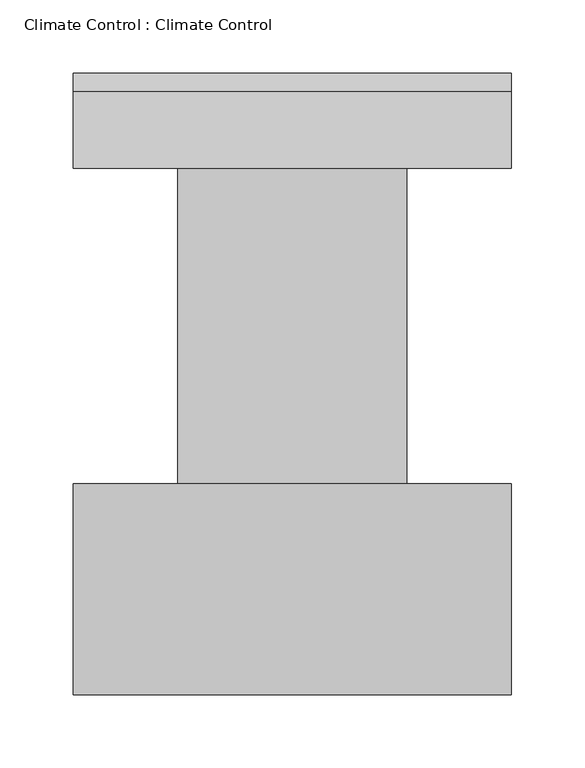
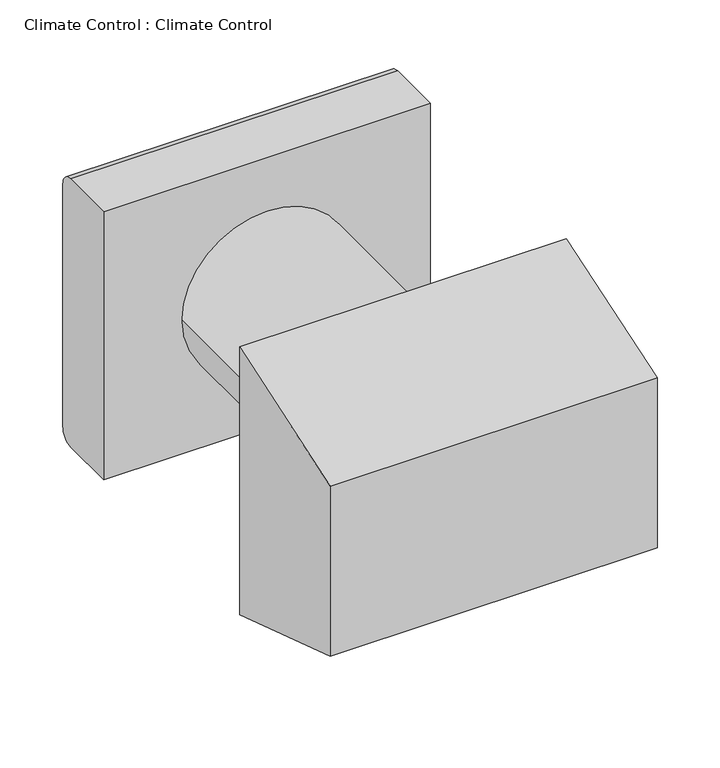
"""IFC4 building model written with IfcOpenShell, lengths in millimetres: proxy geometry, Climate Control : Climate Control."""

from ifc_helpers import new_model, si_unit, point, frame, frame_2d, origin, place, context, project, spatial, polyline, circle_curve, trimmed, segment, composite_curve, outline, extrude, source, transform, mapped, element, save


def climate_control_climate_control_4ab677a5(model_context):
    return source(origin(), model_context, "Body", "SweptSolid", [
        extrude(outline(composite_curve([segment(trimmed(circle_curve(frame_2d((190.8823416, 247.8249889)), 12.7), [point((190.8823416, 260.5249889))], [point((203.5823416, 247.8249889))], False, "CARTESIAN"), True, "CONTINUOUS"), segment(polyline([(203.5823416, 247.8249889), (203.5823416, 12.8749889)]), True, "CONTINUOUS"), segment(trimmed(circle_curve(frame_2d((190.8823416, 12.8749889)), 12.7), [point((203.5823416, 12.8749889))], [point((190.8823416, 0.1749889))], False, "CARTESIAN"), True, "CONTINUOUS"), segment(polyline([(190.8823416, 0.1749889), (138.5583416, 0.1749889), (138.5583416, 260.5249889), (190.8823416, 260.5249889)]), True, "CONTINUOUS")], self_intersect=False)), frame((0.0, 0.0, 0.0), z_axis=(1.0, 0.0, 0.0), x_axis=(0.0, 1.0, 0.0)), (0.0, 0.0, 1.0), 300.0),
        extrude(outline(composite_curve([segment(trimmed(circle_curve(frame_2d((130.3499889, 150.0)), 78.5), [point((130.3499889, 71.5))], [point((130.3499889, 228.5))], False, "CARTESIAN"), True, "CONTINUOUS"), segment(trimmed(circle_curve(frame_2d((130.3499889, 150.0)), 78.5), [point((130.3499889, 228.5))], [point((130.3499889, 71.5))], False, "CARTESIAN"), True, "CONTINUOUS")], self_intersect=False)), frame((0.0, -77.4416584, 0.0), z_axis=(0.0, 1.0, 0.0), x_axis=(0.0, 0.0, 1.0)), (0.0, 0.0, 1.0), 216.0),
        extrude(outline(polyline([(-77.4416584, 260.3499889), (-77.4416584, 0.0), (-221.9040055, 47.6250648), (-221.9040055, 212.7251625), (-77.4416584, 260.3499889)])), frame((0.0, 0.0, 0.0), z_axis=(1.0, 0.0, 0.0), x_axis=(0.0, 1.0, 0.0)), (0.0, 0.0, 1.0), 300.0),
    ])


if __name__ == "__main__":
    model = new_model("IFC4")
    model_context = context("Model", 3, world=origin())
    ifc_project = project(units=[si_unit("LENGTHUNIT", "METRE", prefix="MILLI")], contexts=[model_context])
    site = spatial("IfcSite", under=ifc_project)
    building = spatial("IfcBuilding", under=site)
    placement = place(None, origin())
    climate_control_climate_control_shape = climate_control_climate_control_4ab677a5(model_context)
    element("IfcBuildingElementProxy", 1, Name="Climate Control : Climate Control", ObjectType="Climate Control : Climate Control", at=placement, inside=building, context=model_context, shape_type="MappedRepresentation", body=[
        mapped(climate_control_climate_control_shape, transform((0.0, 0.0, 0.0), x_axis=(1.0, 0.0, 0.0), y_axis=(0.0, 1.0, 0.0), z_axis=(0.0, 0.0, 1.0))),
    ])
    save(model, "model.ifc")
